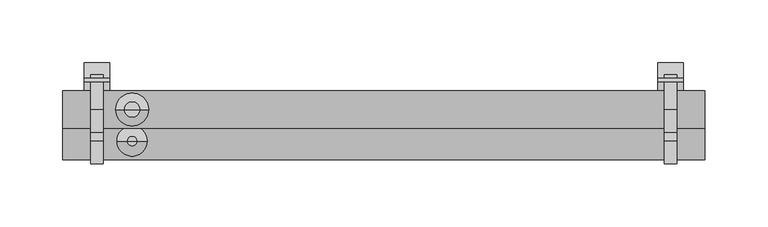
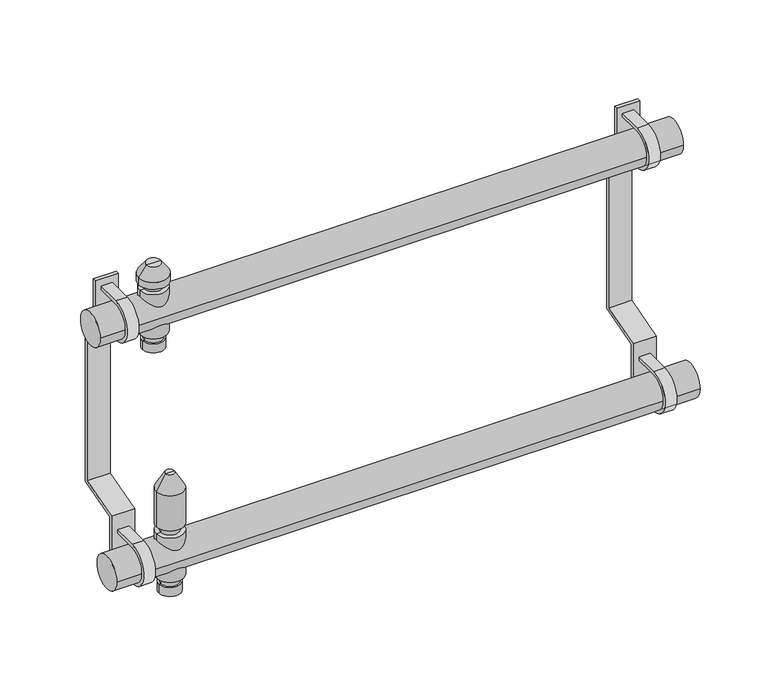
"""IFC4 building model written with IfcOpenShell, lengths in millimetres: valve geometry, PL CZ_Manifold_FT-VA : 09 circuits."""

from ifc_helpers import new_model, si_unit, point, frame, frame_2d, origin, origin_2d, place, context, project, spatial, polyline, circle_curve, trimmed, segment, composite_curve, outline, extrude, source, transform, mapped, element, save
from ifc_brep_helpers import plane_surface, cylinder_surface, revolved_surface, advanced_brep


def valve_ce1a9fe1(model_context):
    return source(origin(), model_context, "Body", "SolidModel", [
        advanced_brep(
        [(28.5, 25.0, 174.88733), (47.5, 25.0, 174.88733), (38.0, 25.0, 174.88733), (28.5, 25.0, 182.9630354), (47.5, 25.0, 182.9630354), (30.0, 25.0, 182.9630354), (46.0, 25.0, 182.9630354), (30.0, 25.0, 189.669747), (46.0, 25.0, 189.669747), (26.0, 25.0, 189.669747), (50.0, 25.0, 189.669747), (26.0, 25.0, 230.330253), (50.0, 25.0, 230.330253), (30.0, 25.0, 230.330253), (46.0, 25.0, 230.330253), (30.0, 25.0, 236.0474786), (46.0, 25.0, 236.0474786), (25.0, 25.0, 236.0474786), (51.0, 25.0, 236.0474786), (25.0, 25.0, 242.337955), (51.0, 25.0, 242.337955), (31.6551779, 25.0, 251.842534), (44.3448221, 25.0, 251.842534), (38.0, 25.0, 251.842534)],
        [
            (0, 1, circle_curve(frame((38.0, 25.0, 174.88733), z_axis=(0.0, 0.0, -1.0), x_axis=(1.0, 0.0, 0.0)), 9.5)),
            (1, 2),
            (2, 0),
            (1, 0, circle_curve(frame((38.0, 25.0, 174.88733), z_axis=(0.0, 0.0, -1.0), x_axis=(1.0, 0.0, 0.0)), 9.5)),
            (3, 4, circle_curve(frame((38.0, 25.0, 182.9630354), z_axis=(0.0, 0.0, -1.0), x_axis=(1.0, 0.0, 0.0)), 9.5)),
            (4, 1),
            (0, 3),
            (4, 3, circle_curve(frame((38.0, 25.0, 182.9630354), z_axis=(0.0, 0.0, -1.0), x_axis=(1.0, 0.0, 0.0)), 9.5)),
            (5, 6, circle_curve(frame((38.0, 25.0, 182.9630354), z_axis=(0.0, 0.0, -1.0), x_axis=(1.0, 0.0, 0.0)), 8.0)),
            (6, 4),
            (3, 5),
            (6, 5, circle_curve(frame((38.0, 25.0, 182.9630354), z_axis=(0.0, 0.0, -1.0), x_axis=(1.0, 0.0, 0.0)), 8.0)),
            (7, 8, circle_curve(frame((38.0, 25.0, 189.669747), z_axis=(0.0, 0.0, -1.0), x_axis=(1.0, 0.0, 0.0)), 8.0)),
            (8, 6),
            (5, 7),
            (8, 7, circle_curve(frame((38.0, 25.0, 189.669747), z_axis=(0.0, 0.0, -1.0), x_axis=(1.0, 0.0, 0.0)), 8.0)),
            (9, 10, circle_curve(frame((38.0, 25.0, 189.669747), z_axis=(0.0, 0.0, -1.0), x_axis=(1.0, 0.0, 0.0)), 12.0)),
            (10, 8),
            (7, 9),
            (10, 9, circle_curve(frame((38.0, 25.0, 189.669747), z_axis=(0.0, 0.0, -1.0), x_axis=(1.0, 0.0, 0.0)), 12.0)),
            (11, 12, circle_curve(frame((38.0, 25.0, 230.330253), z_axis=(0.0, 0.0, -1.0), x_axis=(1.0, 0.0, 0.0)), 12.0)),
            (12, 10),
            (9, 11),
            (12, 11, circle_curve(frame((38.0, 25.0, 230.330253), z_axis=(0.0, 0.0, -1.0), x_axis=(1.0, 0.0, 0.0)), 12.0)),
            (13, 14, circle_curve(frame((38.0, 25.0, 230.330253), z_axis=(0.0, 0.0, -1.0), x_axis=(1.0, 0.0, 0.0)), 8.0)),
            (14, 12),
            (11, 13),
            (14, 13, circle_curve(frame((38.0, 25.0, 230.330253), z_axis=(0.0, 0.0, -1.0), x_axis=(1.0, 0.0, 0.0)), 8.0)),
            (15, 16, circle_curve(frame((38.0, 25.0, 236.0474786), z_axis=(0.0, 0.0, -1.0), x_axis=(1.0, 0.0, 0.0)), 8.0)),
            (16, 14),
            (13, 15),
            (16, 15, circle_curve(frame((38.0, 25.0, 236.0474786), z_axis=(0.0, 0.0, -1.0), x_axis=(1.0, 0.0, 0.0)), 8.0)),
            (17, 18, circle_curve(frame((38.0, 25.0, 236.0474786), z_axis=(0.0, 0.0, -1.0), x_axis=(1.0, 0.0, 0.0)), 13.0)),
            (18, 16),
            (15, 17),
            (18, 17, circle_curve(frame((38.0, 25.0, 236.0474786), z_axis=(0.0, 0.0, -1.0), x_axis=(1.0, 0.0, 0.0)), 13.0)),
            (19, 20, circle_curve(frame((38.0, 25.0, 242.337955), z_axis=(0.0, 0.0, -1.0), x_axis=(1.0, 0.0, 0.0)), 13.0)),
            (20, 18),
            (17, 19),
            (20, 19, circle_curve(frame((38.0, 25.0, 242.337955), z_axis=(0.0, 0.0, -1.0), x_axis=(1.0, 0.0, 0.0)), 13.0)),
            (21, 22, circle_curve(frame((38.0, 25.0, 251.842534), z_axis=(0.0, 0.0, -1.0), x_axis=(1.0, 0.0, 0.0)), 6.3448221)),
            (22, 20),
            (19, 21),
            (22, 21, circle_curve(frame((38.0, 25.0, 251.842534), z_axis=(0.0, 0.0, -1.0), x_axis=(1.0, 0.0, 0.0)), 6.3448221)),
            (23, 22),
            (21, 23),
        ],
        [
            plane_surface(frame((38.0, 25.0, 174.88733), z_axis=(0.0, 0.0, -1.0), x_axis=(1.0, 0.0, 0.0))),
            cylinder_surface(frame((38.0, 25.0, 247.7026565), z_axis=(0.0, 0.0, 1.0), x_axis=(1.0, 0.0, 0.0)), 9.5),
            plane_surface(frame((38.0, 25.0, 182.9630354), z_axis=(0.0, 0.0, 1.0), x_axis=(1.0, 0.0, 0.0))),
            cylinder_surface(frame((38.0, 25.0, 247.7026565), z_axis=(0.0, 0.0, 1.0), x_axis=(1.0, 0.0, 0.0)), 8.0),
            plane_surface(frame((38.0, 25.0, 189.669747), z_axis=(0.0, 0.0, -1.0), x_axis=(1.0, 0.0, 0.0))),
            cylinder_surface(frame((38.0, 25.0, 247.7026565), z_axis=(0.0, 0.0, 1.0), x_axis=(1.0, 0.0, 0.0)), 12.0),
            plane_surface(frame((38.0, 25.0, 230.330253), z_axis=(0.0, 0.0, 1.0), x_axis=(1.0, 0.0, 0.0))),
            plane_surface(frame((38.0, 25.0, 236.0474786), z_axis=(0.0, 0.0, -1.0), x_axis=(1.0, 0.0, 0.0))),
            cylinder_surface(frame((38.0, 25.0, 247.7026565), z_axis=(0.0, 0.0, 1.0), x_axis=(1.0, 0.0, 0.0)), 13.0),
            revolved_surface(polyline([(51.0, 25.0, 242.337955), (44.3448221, 25.0, 251.842534)]), (38.0, 25.0, 247.7026565), (0.0, 0.0, 1.0)),
            plane_surface(frame((38.0, 25.0, 251.842534), z_axis=(0.0, 0.0, 1.0), x_axis=(1.0, 0.0, 0.0))),
        ],
        [
            (0, [[1, 2, 3]]),
            (0, [[4, -3, -2]]),
            (1, [[5, 6, -1, 7]]),
            (1, [[8, -7, -4, -6]]),
            (2, [[9, 10, -5, 11]]),
            (2, [[12, -11, -8, -10]]),
            (3, [[13, 14, -9, 15]]),
            (3, [[16, -15, -12, -14]]),
            (4, [[17, 18, -13, 19]]),
            (4, [[20, -19, -16, -18]]),
            (5, [[21, 22, -17, 23]]),
            (5, [[24, -23, -20, -22]]),
            (6, [[25, 26, -21, 27]]),
            (6, [[28, -27, -24, -26]]),
            (3, [[29, 30, -25, 31]]),
            (3, [[32, -31, -28, -30]]),
            (7, [[33, 34, -29, 35]]),
            (7, [[36, -35, -32, -34]]),
            (8, [[37, 38, -33, 39]]),
            (8, [[40, -39, -36, -38]]),
            (9, [[41, 42, -37, 43]]),
            (9, [[44, -43, -40, -42]]),
            (10, [[45, -41, 46]]),
            (10, [[-46, -44, -45]]),
        ],
    ),
        advanced_brep(
        [(28.5, 0.0, -35.11267), (47.5, 0.0, -35.11267), (38.0, 0.0, -35.11267), (28.5, 0.0, -27.0369646), (47.5, 0.0, -27.0369646), (30.0, 0.0, -27.0369646), (46.0, 0.0, -27.0369646), (30.0, 0.0, -20.330253), (46.0, 0.0, -20.330253), (26.0, 0.0, -20.330253), (50.0, 0.0, -20.330253), (26.0, 0.0, 20.330253), (50.0, 0.0, 20.330253), (30.0, 0.0, 20.330253), (46.0, 0.0, 20.330253), (30.0, 0.0, 27.0474786), (46.0, 0.0, 27.0474786), (26.0, 0.0, 27.0474786), (50.0, 0.0, 27.0474786), (26.0, 0.0, 59.4084325), (50.0, 0.0, 59.4084325), (34.0, 0.0, 73.264839), (42.0, 0.0, 73.264839), (38.0, 0.0, 73.264839)],
        [
            (0, 1, circle_curve(frame((38.0, 0.0, -35.11267), z_axis=(0.0, 0.0, -1.0), x_axis=(1.0, 0.0, 0.0)), 9.5)),
            (1, 2),
            (2, 0),
            (1, 0, circle_curve(frame((38.0, 0.0, -35.11267), z_axis=(0.0, 0.0, -1.0), x_axis=(1.0, 0.0, 0.0)), 9.5)),
            (3, 4, circle_curve(frame((38.0, 0.0, -27.0369646), z_axis=(0.0, 0.0, -1.0), x_axis=(1.0, 0.0, 0.0)), 9.5)),
            (4, 1),
            (0, 3),
            (4, 3, circle_curve(frame((38.0, 0.0, -27.0369646), z_axis=(0.0, 0.0, -1.0), x_axis=(1.0, 0.0, 0.0)), 9.5)),
            (5, 6, circle_curve(frame((38.0, 0.0, -27.0369646), z_axis=(0.0, 0.0, -1.0), x_axis=(1.0, 0.0, 0.0)), 8.0)),
            (6, 4),
            (3, 5),
            (6, 5, circle_curve(frame((38.0, 0.0, -27.0369646), z_axis=(0.0, 0.0, -1.0), x_axis=(1.0, 0.0, 0.0)), 8.0)),
            (7, 8, circle_curve(frame((38.0, 0.0, -20.330253), z_axis=(0.0, 0.0, -1.0), x_axis=(1.0, 0.0, 0.0)), 8.0)),
            (8, 6),
            (5, 7),
            (8, 7, circle_curve(frame((38.0, 0.0, -20.330253), z_axis=(0.0, 0.0, -1.0), x_axis=(1.0, 0.0, 0.0)), 8.0)),
            (9, 10, circle_curve(frame((38.0, 0.0, -20.330253), z_axis=(0.0, 0.0, -1.0), x_axis=(1.0, 0.0, 0.0)), 12.0)),
            (10, 8),
            (7, 9),
            (10, 9, circle_curve(frame((38.0, 0.0, -20.330253), z_axis=(0.0, 0.0, -1.0), x_axis=(1.0, 0.0, 0.0)), 12.0)),
            (11, 12, circle_curve(frame((38.0, 0.0, 20.330253), z_axis=(0.0, 0.0, -1.0), x_axis=(1.0, 0.0, 0.0)), 12.0)),
            (12, 10),
            (9, 11),
            (12, 11, circle_curve(frame((38.0, 0.0, 20.330253), z_axis=(0.0, 0.0, -1.0), x_axis=(1.0, 0.0, 0.0)), 12.0)),
            (13, 14, circle_curve(frame((38.0, 0.0, 20.330253), z_axis=(0.0, 0.0, -1.0), x_axis=(1.0, 0.0, 0.0)), 8.0)),
            (14, 12),
            (11, 13),
            (14, 13, circle_curve(frame((38.0, 0.0, 20.330253), z_axis=(0.0, 0.0, -1.0), x_axis=(1.0, 0.0, 0.0)), 8.0)),
            (15, 16, circle_curve(frame((38.0, 0.0, 27.0474786), z_axis=(0.0, 0.0, -1.0), x_axis=(1.0, 0.0, 0.0)), 8.0)),
            (16, 14),
            (13, 15),
            (16, 15, circle_curve(frame((38.0, 0.0, 27.0474786), z_axis=(0.0, 0.0, -1.0), x_axis=(1.0, 0.0, 0.0)), 8.0)),
            (17, 18, circle_curve(frame((38.0, 0.0, 27.0474786), z_axis=(0.0, 0.0, -1.0), x_axis=(1.0, 0.0, 0.0)), 12.0)),
            (18, 16),
            (15, 17),
            (18, 17, circle_curve(frame((38.0, 0.0, 27.0474786), z_axis=(0.0, 0.0, -1.0), x_axis=(1.0, 0.0, 0.0)), 12.0)),
            (19, 20, circle_curve(frame((38.0, 0.0, 59.4084325), z_axis=(0.0, 0.0, -1.0), x_axis=(1.0, 0.0, 0.0)), 12.0)),
            (20, 18),
            (17, 19),
            (20, 19, circle_curve(frame((38.0, 0.0, 59.4084325), z_axis=(0.0, 0.0, -1.0), x_axis=(1.0, 0.0, 0.0)), 12.0)),
            (21, 22, circle_curve(frame((38.0, 0.0, 73.264839), z_axis=(0.0, 0.0, -1.0), x_axis=(1.0, 0.0, 0.0)), 4.0)),
            (22, 20),
            (19, 21),
            (22, 21, circle_curve(frame((38.0, 0.0, 73.264839), z_axis=(0.0, 0.0, -1.0), x_axis=(1.0, 0.0, 0.0)), 4.0)),
            (23, 22),
            (21, 23),
        ],
        [
            plane_surface(frame((38.0, 0.0, -35.11267), z_axis=(0.0, 0.0, -1.0), x_axis=(1.0, 0.0, 0.0))),
            cylinder_surface(frame((38.0, 0.0, 58.264839), z_axis=(0.0, 0.0, 1.0), x_axis=(1.0, 0.0, 0.0)), 9.5),
            plane_surface(frame((38.0, 0.0, -27.0369646), z_axis=(0.0, 0.0, 1.0), x_axis=(1.0, 0.0, 0.0))),
            cylinder_surface(frame((38.0, 0.0, 58.264839), z_axis=(0.0, 0.0, 1.0), x_axis=(1.0, 0.0, 0.0)), 8.0),
            plane_surface(frame((38.0, 0.0, -20.330253), z_axis=(0.0, 0.0, -1.0), x_axis=(1.0, 0.0, 0.0))),
            cylinder_surface(frame((38.0, 0.0, 58.264839), z_axis=(0.0, 0.0, 1.0), x_axis=(1.0, 0.0, 0.0)), 12.0),
            plane_surface(frame((38.0, 0.0, 20.330253), z_axis=(0.0, 0.0, 1.0), x_axis=(1.0, 0.0, 0.0))),
            plane_surface(frame((38.0, 0.0, 27.0474786), z_axis=(0.0, 0.0, -1.0), x_axis=(1.0, 0.0, 0.0))),
            revolved_surface(polyline([(50.0, 0.0, 59.4084325), (42.0, 0.0, 73.264839)]), (38.0, 0.0, 58.264839), (0.0, 0.0, 1.0)),
            plane_surface(frame((38.0, 0.0, 73.264839), z_axis=(0.0, 0.0, 1.0), x_axis=(1.0, 0.0, 0.0))),
        ],
        [
            (0, [[1, 2, 3]]),
            (0, [[4, -3, -2]]),
            (1, [[5, 6, -1, 7]]),
            (1, [[8, -7, -4, -6]]),
            (2, [[9, 10, -5, 11]]),
            (2, [[12, -11, -8, -10]]),
            (3, [[13, 14, -9, 15]]),
            (3, [[16, -15, -12, -14]]),
            (4, [[17, 18, -13, 19]]),
            (4, [[20, -19, -16, -18]]),
            (5, [[21, 22, -17, 23]]),
            (5, [[24, -23, -20, -22]]),
            (6, [[25, 26, -21, 27]]),
            (6, [[28, -27, -24, -26]]),
            (3, [[29, 30, -25, 31]]),
            (3, [[32, -31, -28, -30]]),
            (7, [[33, 34, -29, 35]]),
            (7, [[36, -35, -32, -34]]),
            (5, [[37, 38, -33, 39]]),
            (5, [[40, -39, -36, -38]]),
            (8, [[41, 42, -37, 43]]),
            (8, [[44, -43, -40, -42]]),
            (9, [[45, -41, 46]]),
            (9, [[-46, -44, -45]]),
        ],
    ),
        extrude(outline(composite_curve([segment(trimmed(circle_curve(origin_2d(), 15.0), [point((0.0, 15.0))], [point((0.0, -15.0))], True, "CARTESIAN"), True, "CONTINUOUS"), segment(polyline([(0.0, -15.0), (27.6751284, -15.0), (27.6751284, -18.0), (0.0, -18.0)]), True, "CONTINUOUS"), segment(trimmed(circle_curve(origin_2d(), 18.0), [point((0.0, -18.0))], [point((0.0, 18.0))], False, "CARTESIAN"), True, "CONTINUOUS"), segment(polyline([(0.0, 18.0), (27.6751284, 18.0), (27.6751284, 15.0), (0.0, 15.0)]), True, "CONTINUOUS")], self_intersect=False)), frame((461.0, 0.0, 0.0), z_axis=(1.0, 0.0, 0.0), x_axis=(0.0, 1.0, 0.0)), (0.0, 0.0, 1.0), 10.0),
        extrude(outline(composite_curve([segment(trimmed(circle_curve(frame_2d((25.0, 210.0)), 15.0), [point((25.0, 225.0))], [point((25.0, 195.0))], True, "CARTESIAN"), True, "CONTINUOUS"), segment(polyline([(25.0, 195.0), (52.6751284, 195.0), (52.6751284, 192.0), (25.0, 192.0)]), True, "CONTINUOUS"), segment(trimmed(circle_curve(frame_2d((25.0, 210.0)), 18.0), [point((25.0, 192.0))], [point((25.0, 228.0))], False, "CARTESIAN"), True, "CONTINUOUS"), segment(polyline([(25.0, 228.0), (52.6751284, 228.0), (52.6751284, 225.0), (25.0, 225.0)]), True, "CONTINUOUS")], self_intersect=False)), frame((461.0, 0.0, 0.0), z_axis=(1.0, 0.0, 0.0), x_axis=(0.0, 1.0, 0.0)), (0.0, 0.0, 1.0), 10.0),
        extrude(outline(polyline([(62.0, 182.8840762), (62.0, 40.6095793), (25.0, 30.0), (25.0, -30.0), (22.0, -30.0), (22.0, 32.2606622), (59.0, 42.8702414), (59.0, 180.3667773), (47.0, 182.4827011), (47.0, 235.0), (50.0, 235.0), (50.0, 185.0), (62.0, 182.8840762)])), frame((456.0, 0.0, 0.0), z_axis=(1.0, 0.0, 0.0), x_axis=(0.0, 1.0, 0.0)), (0.0, 0.0, 1.0), 20.0),
        extrude(outline(composite_curve([segment(trimmed(circle_curve(origin_2d(), 15.0), [point((0.0, 15.0))], [point((0.0, -15.0))], True, "CARTESIAN"), True, "CONTINUOUS"), segment(polyline([(0.0, -15.0), (27.6751284, -15.0), (27.6751284, -18.0), (0.0, -18.0)]), True, "CONTINUOUS"), segment(trimmed(circle_curve(origin_2d(), 18.0), [point((0.0, -18.0))], [point((0.0, 18.0))], False, "CARTESIAN"), True, "CONTINUOUS"), segment(polyline([(0.0, 18.0), (27.6751284, 18.0), (27.6751284, 15.0), (0.0, 15.0)]), True, "CONTINUOUS")], self_intersect=False)), frame((5.0, 0.0, 0.0), z_axis=(1.0, 0.0, 0.0), x_axis=(0.0, 1.0, 0.0)), (0.0, 0.0, 1.0), 10.0),
        extrude(outline(composite_curve([segment(trimmed(circle_curve(frame_2d((25.0, 210.0)), 15.0), [point((25.0, 225.0))], [point((25.0, 195.0))], True, "CARTESIAN"), True, "CONTINUOUS"), segment(polyline([(25.0, 195.0), (52.6751284, 195.0), (52.6751284, 192.0), (25.0, 192.0)]), True, "CONTINUOUS"), segment(trimmed(circle_curve(frame_2d((25.0, 210.0)), 18.0), [point((25.0, 192.0))], [point((25.0, 228.0))], False, "CARTESIAN"), True, "CONTINUOUS"), segment(polyline([(25.0, 228.0), (52.6751284, 228.0), (52.6751284, 225.0), (25.0, 225.0)]), True, "CONTINUOUS")], self_intersect=False)), frame((5.0, 0.0, 0.0), z_axis=(1.0, 0.0, 0.0), x_axis=(0.0, 1.0, 0.0)), (0.0, 0.0, 1.0), 10.0),
        extrude(outline(polyline([(62.0, 182.8840762), (62.0, 40.6095793), (25.0, 30.0), (25.0, -30.0), (22.0, -30.0), (22.0, 32.2606622), (59.0, 42.8702414), (59.0, 180.3667773), (47.0, 182.4827011), (47.0, 235.0), (50.0, 235.0), (50.0, 185.0), (62.0, 182.8840762)])), frame((0.0, 0.0, 0.0), z_axis=(1.0, 0.0, 0.0), x_axis=(0.0, 1.0, 0.0)), (0.0, 0.0, 1.0), 20.0),
        extrude(outline(composite_curve([segment(trimmed(circle_curve(origin_2d(), 15.0), [point((15.0, 0.0))], [point((-15.0, 0.0))], False, "CARTESIAN"), True, "CONTINUOUS"), segment(trimmed(circle_curve(origin_2d(), 15.0), [point((-15.0, 0.0))], [point((15.0, 0.0))], False, "CARTESIAN"), True, "CONTINUOUS")], self_intersect=False)), frame((-17.0, 0.0, 0.0), z_axis=(1.0, 0.0, 0.0), x_axis=(0.0, 1.0, 0.0)), (0.0, 0.0, 1.0), 510.0),
        extrude(outline(composite_curve([segment(trimmed(circle_curve(frame_2d((25.0, 210.0)), 15.0), [point((40.0, 210.0))], [point((10.0, 210.0))], False, "CARTESIAN"), True, "CONTINUOUS"), segment(trimmed(circle_curve(frame_2d((25.0, 210.0)), 15.0), [point((10.0, 210.0))], [point((40.0, 210.0))], False, "CARTESIAN"), True, "CONTINUOUS")], self_intersect=False)), frame((-17.0, 0.0, 0.0), z_axis=(1.0, 0.0, 0.0), x_axis=(0.0, 1.0, 0.0)), (0.0, 0.0, 1.0), 510.0),
    ])


if __name__ == "__main__":
    model = new_model("IFC4")
    model_context = context("Model", 3, world=origin())
    ifc_project = project(units=[si_unit("LENGTHUNIT", "METRE", prefix="MILLI")], contexts=[model_context])
    site = spatial("IfcSite", under=ifc_project)
    building = spatial("IfcBuilding", under=site)
    placement = place(None, origin())
    valve_shape = valve_ce1a9fe1(model_context)
    element("IfcValve", 1, ObjectType="PL CZ_Manifold_FT-VA : 09 circuits", at=placement, inside=building, context=model_context, shape_type="MappedRepresentation", body=[
        mapped(valve_shape, transform((0.0, 0.0, 0.0), x_axis=(1.0, 0.0, 0.0), y_axis=(0.0, 1.0, 0.0), z_axis=(0.0, 0.0, 1.0))),
    ])
    save(model, "model.ifc")
